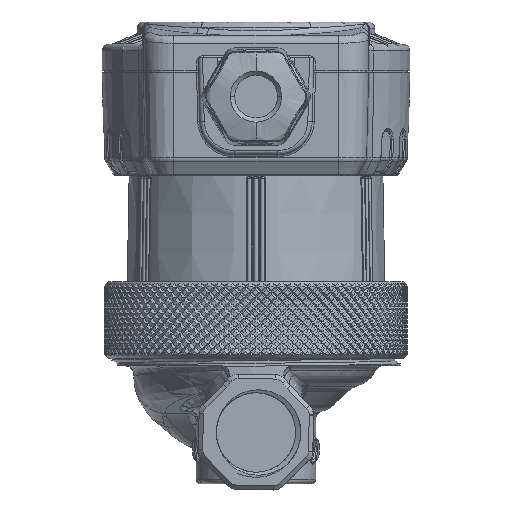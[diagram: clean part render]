
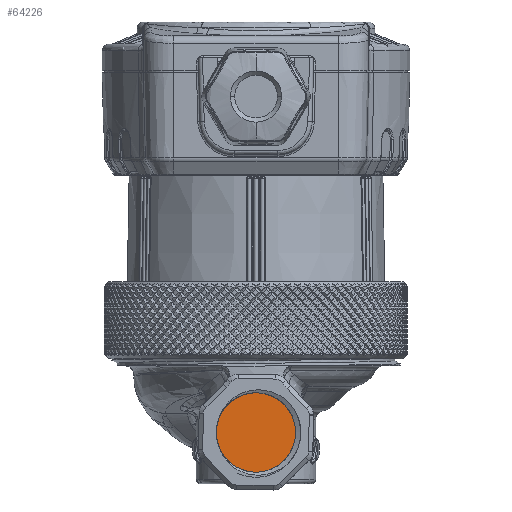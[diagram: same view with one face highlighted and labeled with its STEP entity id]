
A CAD part, left-side view. The second image highlights one B-rep face of the part: STEP entity #64226.
In plain terms, the highlighted planar face has unit normal (-1, 0, 0).
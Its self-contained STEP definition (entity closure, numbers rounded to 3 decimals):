
#18269 = ORIENTED_EDGE ( 'NONE', *, *, #365363, .T. ) ;
#19938 = DIRECTION ( 'NONE',  ( 0., -0.992, 0.126 ) ) ;
#21901 = DIRECTION ( 'NONE',  ( 0., 0., 1. ) ) ;
#22703 = VERTEX_POINT ( 'NONE', #213345 ) ;
#49144 = EDGE_LOOP ( 'NONE', ( #279958, #170473, #18269, #313071, #310123, #294201 ) ) ;
#50598 = CARTESIAN_POINT ( 'NONE',  ( -21., 8.888, -2.767 ) ) ;
#64226 = ADVANCED_FACE ( 'NONE', ( #390998 ), #173505, .T. ) ;
#65202 = VERTEX_POINT ( 'NONE', #185989 ) ;
#75333 = CARTESIAN_POINT ( 'NONE',  ( -21., 8.941, -2.622 ) ) ;
#94495 = AXIS2_PLACEMENT_3D ( 'NONE', #383143, #387055, #21901 ) ;
#98112 = CARTESIAN_POINT ( 'NONE',  ( -21., 8.941, -2.622 ) ) ;
#101093 = VERTEX_POINT ( 'NONE', #338325 ) ;
#105967 = CARTESIAN_POINT ( 'NONE',  ( -21., 9.109, -2.155 ) ) ;
#109817 = AXIS2_PLACEMENT_3D ( 'NONE', #159849, #373440, #375402 ) ;
#120583 = EDGE_CURVE ( 'NONE', #22703, #65202, #207194, .T. ) ;
#134040 = VERTEX_POINT ( 'NONE', #50598 ) ;
#135783 = LINE ( 'NONE', #257453, #323262 ) ;
#157570 = EDGE_CURVE ( 'NONE', #134040, #101093, #200300, .T. ) ;
#159849 = CARTESIAN_POINT ( 'NONE',  ( -21., 0.009, 0. ) ) ;
#162401 = CARTESIAN_POINT ( 'NONE',  ( -21., 9.235, -1.17 ) ) ;
#167057 = CARTESIAN_POINT ( 'NONE',  ( -21., 8.923, -2.67 ) ) ;
#170473 = ORIENTED_EDGE ( 'NONE', *, *, #120583, .T. ) ;
#173505 = PLANE ( 'NONE',  #94495 ) ;
#174983 = EDGE_CURVE ( 'NONE', #101093, #228048, #218313, .T. ) ;
#185989 = CARTESIAN_POINT ( 'NONE',  ( -21., 8.941, -2.622 ) ) ;
#189183 = B_SPLINE_CURVE_WITH_KNOTS ( 'NONE', 3,
 ( #75333, #167057, #288841, #258827 ),
 .UNSPECIFIED., .F., .F.,
 ( 4, 4 ),
 ( 0., 1. ),
 .UNSPECIFIED. ) ;
#195702 = CARTESIAN_POINT ( 'NONE',  ( -21., 9.332, -1.182 ) ) ;
#200300 = CIRCLE ( 'NONE', #391531, 9.3 ) ;
#207194 = B_SPLINE_CURVE_WITH_KNOTS ( 'NONE', 3,
 ( #195702, #379399, #105967, #98112 ),
 .UNSPECIFIED., .F., .F.,
 ( 4, 4 ),
 ( 0., 1. ),
 .UNSPECIFIED. ) ;
#213345 = CARTESIAN_POINT ( 'NONE',  ( -21., 9.332, -1.182 ) ) ;
#218313 = CIRCLE ( 'NONE', #109817, 9.3 ) ;
#228048 = VERTEX_POINT ( 'NONE', #284634 ) ;
#242876 = EDGE_CURVE ( 'NONE', #22703, #351528, #135783, .T. ) ;
#257453 = CARTESIAN_POINT ( 'NONE',  ( -21., 9.332, -1.182 ) ) ;
#258827 = CARTESIAN_POINT ( 'NONE',  ( -21., 8.888, -2.767 ) ) ;
#279958 = ORIENTED_EDGE ( 'NONE', *, *, #242876, .F. ) ;
#284634 = CARTESIAN_POINT ( 'NONE',  ( -21., 9.309, 0. ) ) ;
#288841 = CARTESIAN_POINT ( 'NONE',  ( -21., 8.905, -2.718 ) ) ;
#294201 = ORIENTED_EDGE ( 'NONE', *, *, #335483, .T. ) ;
#310123 = ORIENTED_EDGE ( 'NONE', *, *, #174983, .T. ) ;
#313071 = ORIENTED_EDGE ( 'NONE', *, *, #157570, .T. ) ;
#318086 = DIRECTION ( 'NONE',  ( 0., 0.955, -0.297 ) ) ;
#323262 = VECTOR ( 'NONE', #19938, 1000. ) ;
#335483 = EDGE_CURVE ( 'NONE', #228048, #351528, #348946, .T. ) ;
#336131 = AXIS2_PLACEMENT_3D ( 'NONE', #381895, #379961, #318086 ) ;
#338325 = CARTESIAN_POINT ( 'NONE',  ( -21., -9.291, 0. ) ) ;
#348946 = CIRCLE ( 'NONE', #336131, 9.3 ) ;
#351528 = VERTEX_POINT ( 'NONE', #162401 ) ;
#365363 = EDGE_CURVE ( 'NONE', #65202, #134040, #189183, .T. ) ;
#373440 = DIRECTION ( 'NONE',  ( -1., 0., 0. ) ) ;
#375402 = DIRECTION ( 'NONE',  ( 0., 0.955, -0.297 ) ) ;
#379399 = CARTESIAN_POINT ( 'NONE',  ( -21., 9.239, -1.675 ) ) ;
#379961 = DIRECTION ( 'NONE',  ( -1., 0., 0. ) ) ;
#381297 = DIRECTION ( 'NONE',  ( 0., 0.955, -0.297 ) ) ;
#381895 = CARTESIAN_POINT ( 'NONE',  ( -21., 0.009, 0. ) ) ;
#383143 = CARTESIAN_POINT ( 'NONE',  ( -21., 0., 0. ) ) ;
#383239 = DIRECTION ( 'NONE',  ( -1., 0., 0. ) ) ;
#387055 = DIRECTION ( 'NONE',  ( -1., 0., 0. ) ) ;
#389114 = CARTESIAN_POINT ( 'NONE',  ( -21., 0.009, 0. ) ) ;
#390998 = FACE_OUTER_BOUND ( 'NONE', #49144, .T. ) ;
#391531 = AXIS2_PLACEMENT_3D ( 'NONE', #389114, #383239, #381297 ) ;
